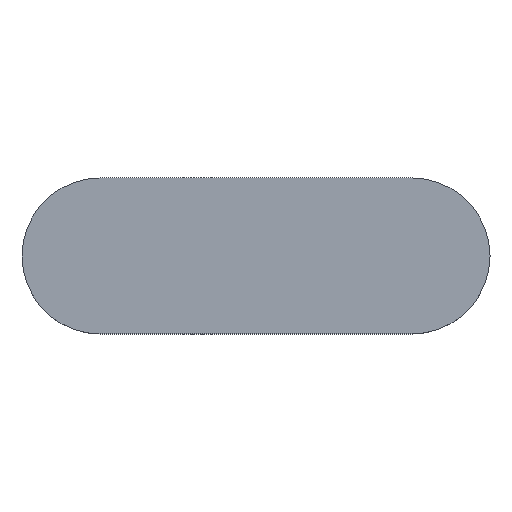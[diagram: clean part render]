
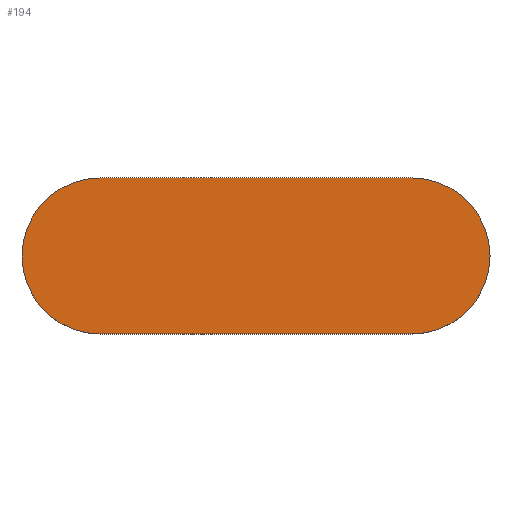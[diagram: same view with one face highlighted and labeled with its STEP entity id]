
A CAD part, top view. The second image highlights one B-rep face of the part: STEP entity #194.
In plain terms, the highlighted planar face has unit normal (0, 0, 1).
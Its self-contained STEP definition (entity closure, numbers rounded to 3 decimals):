
#2 = LINE ( 'NONE', #111, #171 ) ;
#4 = FACE_OUTER_BOUND ( 'NONE', #144, .T. ) ;
#11 = EDGE_CURVE ( 'NONE', #216, #91, #181, .T. ) ;
#19 = AXIS2_PLACEMENT_3D ( 'NONE', #135, #211, #232 ) ;
#30 = DIRECTION ( 'NONE',  ( 0., 0., 1. ) ) ;
#38 = DIRECTION ( 'NONE',  ( 0., 0., 1. ) ) ;
#41 = VERTEX_POINT ( 'NONE', #97 ) ;
#43 = CIRCLE ( 'NONE', #161, 20. ) ;
#45 = CARTESIAN_POINT ( 'NONE',  ( -66.956, -2.762, 5. ) ) ;
#64 = VECTOR ( 'NONE', #208, 1000. ) ;
#68 = LINE ( 'NONE', #132, #64 ) ;
#70 = CIRCLE ( 'NONE', #156, 20. ) ;
#72 = ORIENTED_EDGE ( 'NONE', *, *, #94, .T. ) ;
#79 = ORIENTED_EDGE ( 'NONE', *, *, #11, .T. ) ;
#91 = VERTEX_POINT ( 'NONE', #115 ) ;
#93 = DIRECTION ( 'NONE',  ( 1., 0., 0. ) ) ;
#94 = EDGE_CURVE ( 'NONE', #165, #41, #43, .T. ) ;
#97 = CARTESIAN_POINT ( 'NONE',  ( -86.956, 17.238, 5. ) ) ;
#110 = DIRECTION ( 'NONE',  ( 1., 0., 0. ) ) ;
#111 = CARTESIAN_POINT ( 'NONE',  ( -66.956, 37.238, 5. ) ) ;
#115 = CARTESIAN_POINT ( 'NONE',  ( 13.044, 37.238, 5. ) ) ;
#118 = AXIS2_PLACEMENT_3D ( 'NONE', #149, #128, #110 ) ;
#120 = ORIENTED_EDGE ( 'NONE', *, *, #233, .T. ) ;
#128 = DIRECTION ( 'NONE',  ( 0., 0., 1. ) ) ;
#132 = CARTESIAN_POINT ( 'NONE',  ( -66.956, -2.762, 5. ) ) ;
#135 = CARTESIAN_POINT ( 'NONE',  ( -66.956, 17.238, 5. ) ) ;
#138 = EDGE_CURVE ( 'NONE', #178, #216, #68, .T. ) ;
#142 = ORIENTED_EDGE ( 'NONE', *, *, #187, .T. ) ;
#144 = EDGE_LOOP ( 'NONE', ( #72, #120, #203, #79, #142 ) ) ;
#149 = CARTESIAN_POINT ( 'NONE',  ( 13.044, 17.238, 5. ) ) ;
#156 = AXIS2_PLACEMENT_3D ( 'NONE', #157, #38, #209 ) ;
#157 = CARTESIAN_POINT ( 'NONE',  ( -66.956, 17.238, 5. ) ) ;
#158 = PLANE ( 'NONE',  #19 ) ;
#161 = AXIS2_PLACEMENT_3D ( 'NONE', #189, #30, #93 ) ;
#165 = VERTEX_POINT ( 'NONE', #186 ) ;
#171 = VECTOR ( 'NONE', #184, 1000. ) ;
#178 = VERTEX_POINT ( 'NONE', #45 ) ;
#181 = CIRCLE ( 'NONE', #118, 20. ) ;
#184 = DIRECTION ( 'NONE',  ( -1., 0., 0. ) ) ;
#186 = CARTESIAN_POINT ( 'NONE',  ( -66.956, 37.238, 5. ) ) ;
#187 = EDGE_CURVE ( 'NONE', #91, #165, #2, .T. ) ;
#189 = CARTESIAN_POINT ( 'NONE',  ( -66.956, 17.238, 5. ) ) ;
#194 = ADVANCED_FACE ( 'NONE', ( #4 ), #158, .T. ) ;
#203 = ORIENTED_EDGE ( 'NONE', *, *, #138, .T. ) ;
#208 = DIRECTION ( 'NONE',  ( 1., 0., 0. ) ) ;
#209 = DIRECTION ( 'NONE',  ( 1., 0., 0. ) ) ;
#211 = DIRECTION ( 'NONE',  ( 0., 0., 1. ) ) ;
#216 = VERTEX_POINT ( 'NONE', #228 ) ;
#228 = CARTESIAN_POINT ( 'NONE',  ( 13.044, -2.762, 5. ) ) ;
#232 = DIRECTION ( 'NONE',  ( 1., 0., 0. ) ) ;
#233 = EDGE_CURVE ( 'NONE', #41, #178, #70, .T. ) ;
